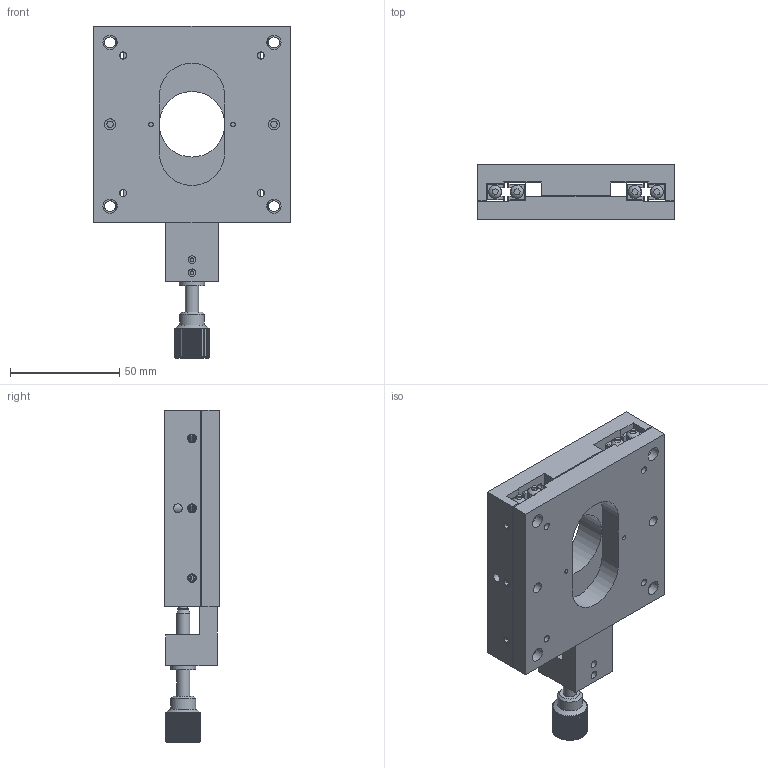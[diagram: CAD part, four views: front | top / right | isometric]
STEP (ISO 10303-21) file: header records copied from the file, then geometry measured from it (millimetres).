
FILE_DESCRIPTION (( 'STEP AP203' ), '1' );
FILE_NAME ('TCS90HX-1A.step', '2017-01-10T09:18:13', ( '¦K¬P' ), ( '' ), 'SwSTEP 2.0', 'SolidWorks 2012', '' );
FILE_SCHEMA (( 'CONFIG_CONTROL_DESIGN' ));
Length unit declared in the file: millimetre
Products named in the file (1): TCS90HX-1A
Bounding box: 90 x 25 x 152 mm (x, y, z)
Surface area: 57794.3 mm2 (no closed solid volume)
Topology: 0 solids, 28 shells, 500 faces, 1515 edges, 1030 vertices
Faces by surface type: plane 352, cylinder 128, cone 10, torus 9, sphere 1
Full cylindrical faces by diameter (mm): 1.7 x2, 2 x6, 3 x4, 3.3 x12, 3.5 x2, 4 x7, 5 x23, 6 x3, 6.5 x4, 8 x1, 10 x1, 11 x4, 11.4 x1, 11.5 x1, 30 x1
Entity records: 17114 total; most frequent: CARTESIAN_POINT 4119, ORIENTED_EDGE 2566, DIRECTION 2448, EDGE_CURVE 1393, VERTEX_POINT 1001, AXIS2_PLACEMENT_3D 822, LINE 804, VECTOR 804
